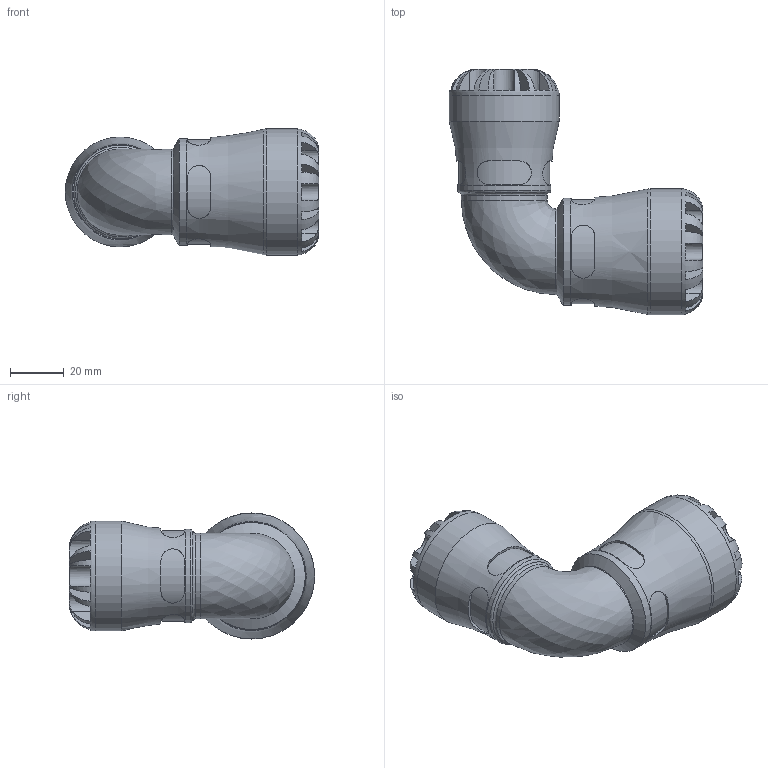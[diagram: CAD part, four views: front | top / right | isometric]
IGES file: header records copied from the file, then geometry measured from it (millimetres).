
Global section: file name: 1005M6025005.ipt; native system: Autodesk Inventor 2015; preprocessor: unknown; author: KIM; date: 20170122.114808; units: millimetre
Bounding box: 94.5 x 91.5 x 47 mm (x, y, z)
Volume: 118432.7 mm3; surface area: 28600.7 mm2
Topology: 1 solids, 1 shells, 194 faces, 504 edges, 320 vertices
Faces by surface type: plane 116, revolution 47, cylinder 30, cone 1
Full cylindrical faces by diameter (mm): 31.98 x2, 34.85 x1, 39.95 x1, 41 x1, 47 x1
